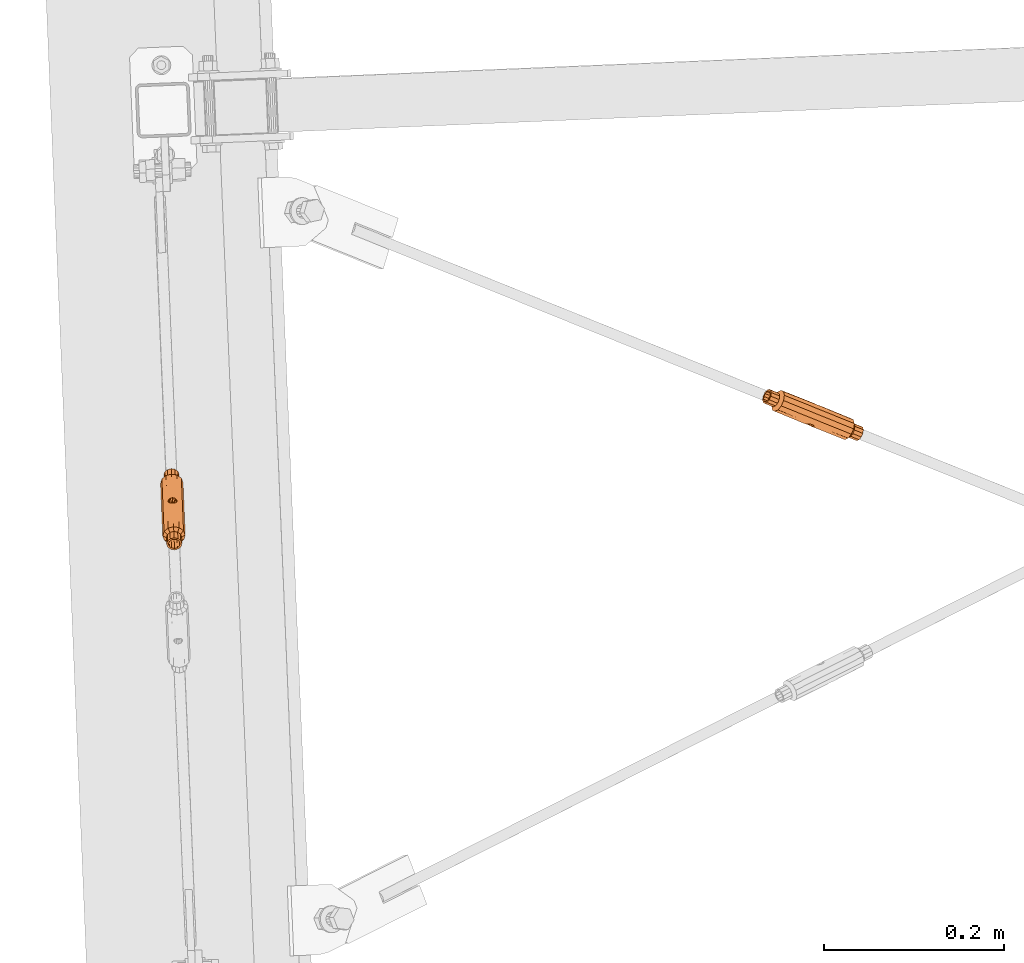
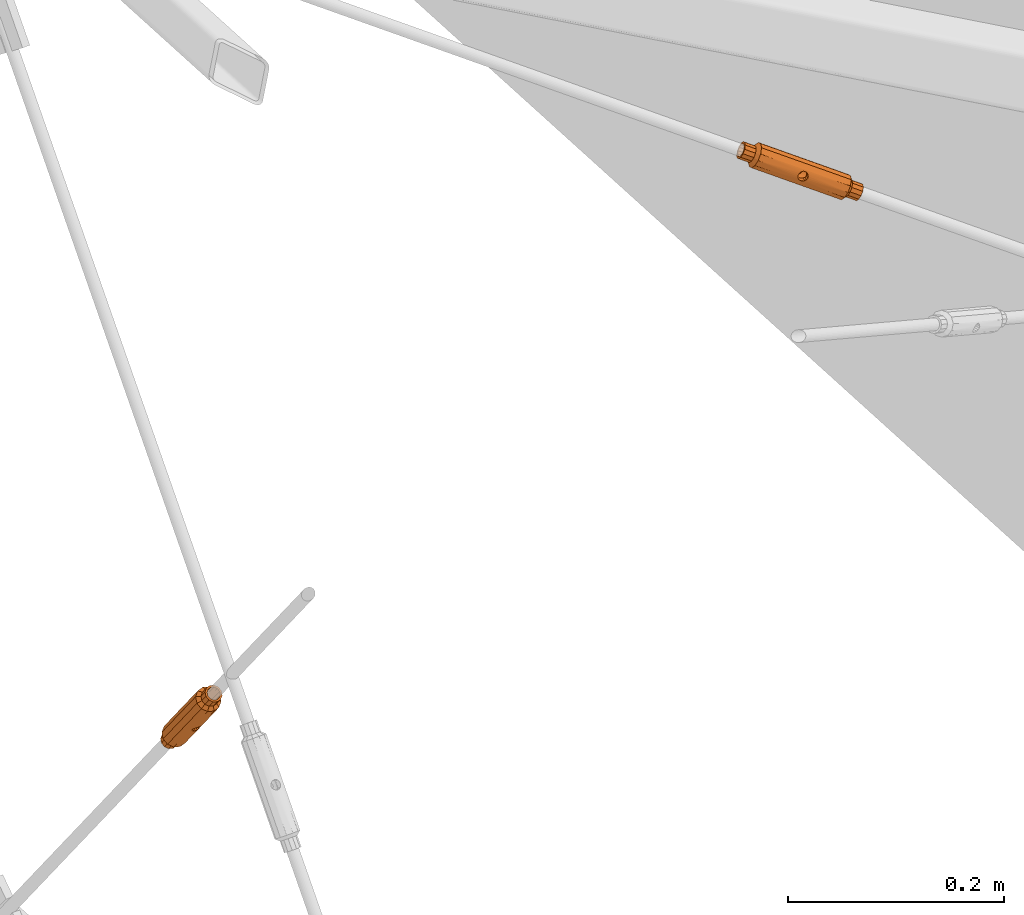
# One storey, part 285 of 288: 2 proxies.
"""IFC2X3 building model written with IfcOpenShell, lengths in millimetres."""

from ifc_helpers import new_model, entity, si_unit, converted_unit, origin_with_axes, place, context, project, spatial, faceted_brep, material, element, save


model = new_model("IFC2X3")

# Units and contexts
model_context = context("Model", 3, precision=1e-09, world=origin_with_axes())
ifc_project = project(units=[si_unit("LENGTHUNIT", "METRE", prefix="MILLI"), si_unit("AREAUNIT", "SQUARE_METRE"), si_unit("VOLUMEUNIT", "CUBIC_METRE"), converted_unit("PLANEANGLEUNIT", "DEGREE", entity("IfcPlaneAngleMeasure", 0.01745329), si_unit("PLANEANGLEUNIT", "RADIAN"), dimensions=[0, 0, 0, 0, 0, 0, 0])], contexts=[model_context])

# Site, building, storey
site_placement = place(None, origin_with_axes())
site = spatial("IfcSite", under=ifc_project, at=site_placement, Name="Remont ?wietlik?w nad MC w NCPP w Opolu", CompositionType="ELEMENT")
building_placement = place(site_placement, origin_with_axes())
building = spatial("IfcBuilding", under=site, at=building_placement, Name="Konstrukcja 1", CompositionType="ELEMENT")
storey_placement = place(building_placement, origin_with_axes())
storey = spatial("IfcBuildingStorey", under=building, at=storey_placement, Name="Default Storey", CompositionType="ELEMENT", Elevation=0.0)

# Proxies
ifc_material = material(Name="Brak")
proxy_1_placement = place(None, origin_with_axes())
element("IfcBuildingElementProxy", 1, at=proxy_1_placement, inside=storey, material=ifc_material, ObjectType="Turnbuckle", context=model_context, shape_type="Brep", body=[
    faceted_brep([(-581.838036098, 10849.304743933, 565.114634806), (-580.726567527, 10847.708688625, 565.826916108), (-580.951422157, 10853.2398469, 570.170030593), (-580.481025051, 10808.806916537, 617.217295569), (-583.243506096, 10844.851162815, 571.957095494), (-581.659646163, 10844.990495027, 570.633138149), (-580.35349049, 10845.676443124, 567.93798921), (-580.62821785, 10845.330163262, 568.869369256), (-580.853541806, 10850.87267188, 573.197965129), (-580.403991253, 10846.897772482, 566.375745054), (-580.513292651, 10851.946107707, 571.585302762), (-583.756584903, 10809.35790212, 617.753929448), (-583.477302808, 10850.505389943, 564.724580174), (-582.082483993, 10854.480891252, 569.130179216), (-585.475048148, 10850.917859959, 564.59316583), (-583.733114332, 10855.364403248, 568.50199654), (-583.663364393, 10885.769801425, 518.771437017), (-579.240637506, 10877.762256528, 526.970500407), (-575.732834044, 10877.335751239, 530.967516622), (-573.85622321, 10872.486848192, 527.116084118), (-577.968544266, 10874.475343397, 524.359740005), (-580.453113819, 10880.747019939, 533.786960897), (-585.670272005, 10855.639226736, 568.290541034), (-585.220461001, 10844.760829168, 572.468834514), (-578.034535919, 10822.255227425, 608.605813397), (-581.902531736, 10850.128858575, 574.697013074), (-583.498133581, 10849.681540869, 575.77114019), (-573.314256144, 10818.843958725, 605.786369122), (-580.275668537, 10846.199317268, 567.084902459), (-578.026479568, 10807.033056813, 615.751184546), (-581.20881891, 10883.995941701, 517.305325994), (-578.234688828, 10881.557139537, 515.302581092), (-579.510784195, 10884.854393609, 517.921555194), (-578.964937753, 10871.094630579, 521.748979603), (-579.234217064, 10878.165790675, 512.683606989), (-583.821659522, 10810.931691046, 618.98638785), (-588.030978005, 10809.860004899, 618.284635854), (-591.038307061, 10807.283270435, 616.367413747), (-592.037835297, 10803.891921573, 613.748439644), (-590.76173993, 10800.594667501, 611.129465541), (-587.551949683, 10798.275004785, 609.212243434), (-583.26852526, 10797.554485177, 608.510491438), (-579.059206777, 10798.626171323, 609.212243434), (-576.051877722, 10801.202905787, 611.129465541), (-575.052349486, 10804.594254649, 613.748439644), (-576.328444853, 10807.891508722, 616.367413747), (-579.5382351, 10810.211171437, 618.284635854), (-589.275197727, 10806.567933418, 615.751184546), (-586.975475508, 10808.538377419, 617.217295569), (-577.050641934, 10804.511627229, 613.748439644), (-577.814987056, 10801.918242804, 611.745694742), (-580.114709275, 10799.947798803, 610.279583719), (-583.333599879, 10799.128274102, 609.742949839), (-586.609159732, 10799.679259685, 610.279583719), (-589.063705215, 10801.453119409, 611.745694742), (-590.039542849, 10803.974548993, 613.748439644), (-586.938924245, 10886.320787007, 519.308070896), (-582.720574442, 10887.174056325, 519.838777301), (-582.440361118, 10880.074644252, 528.881709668), (-586.752267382, 10881.806607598, 534.818949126), (-587.431921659, 10850.341870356, 564.724580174), (-587.57812834, 10855.205415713, 568.50199654), (-587.198124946, 10844.687643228, 571.957095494), (-585.415684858, 10849.482195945, 576.166209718), (-579.831010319, 10817.291756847, 609.227616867), (-584.114434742, 10818.012276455, 609.929368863), (-588.788080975, 10844.695741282, 570.633138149), (-582.241546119, 10875.589056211, 510.766384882), (-586.450864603, 10874.517370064, 510.064632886), (-590.734289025, 10875.237889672, 510.766384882), (-593.944079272, 10877.557552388, 512.683606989), (-595.220174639, 10880.85480646, 515.302581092), (-594.220646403, 10884.246155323, 517.921555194), (-591.213317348, 10886.822889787, 519.838777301), (-587.003998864, 10887.894575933, 520.540529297), (-589.791499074, 10876.642144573, 511.833725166), (-586.515939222, 10876.09115899, 511.297091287), (-583.297048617, 10876.91068369, 511.833725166), (-580.997326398, 10878.881127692, 513.299836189), (-580.232981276, 10881.474512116, 515.302581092), (-590.15781485, 10885.501262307, 518.771437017), (-592.457537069, 10883.530818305, 517.305325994), (-593.221882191, 10880.937433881, 515.302581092), (-592.246044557, 10878.416004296, 513.299836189), (-581.48444315, 10840.753319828, 558.417882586), (-580.428493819, 10840.499962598, 560.181651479), (-583.074399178, 10840.761417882, 557.093925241), (-575.326117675, 10867.499570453, 523.264651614), (-571.43764531, 10813.995055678, 601.934936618), (-576.621220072, 10814.972094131, 607.31039476), (-581.962835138, 10868.525977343, 519.837770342), (-589.150184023, 10854.188648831, 569.130179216), (-588.96647091, 10849.009990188, 565.114634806), (-587.343147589, 10849.522553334, 575.77114019), (-584.333689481, 10823.314815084, 609.637801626), (-588.970231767, 10849.836616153, 574.697013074), (-589.844030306, 10844.949098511, 568.869369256), (-590.07704772, 10850.491289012, 573.197965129), (-590.146407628, 10845.271515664, 567.93798921), (-589.942379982, 10847.327623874, 565.826916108), (-590.174928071, 10852.858464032, 570.170030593), (-580.195476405, 10834.957772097, 555.853055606), (-581.302292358, 10835.612444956, 554.354007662), (-585.052063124, 10840.688231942, 556.582186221), (-582.929376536, 10835.926507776, 553.279880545), (-580.126116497, 10840.177545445, 561.113031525), (-586.710351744, 10880.792904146, 529.581260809), (-590.267130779, 10845.786180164, 567.084902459), (-590.504754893, 10851.532970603, 571.585302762), (-590.196908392, 10846.492845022, 566.375745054), (-588.323753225, 10816.940590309, 609.227616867), (-586.158952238, 10867.457652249, 519.1382192), (-587.029018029, 10840.597898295, 557.093925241), (-584.856839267, 10835.966865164, 552.884811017), (-579.767769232, 10833.916090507, 557.465717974), (-579.748660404, 10863.710255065, 520.445207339), (-572.907539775, 10809.007777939, 598.083504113), (-575.345124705, 10811.674840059, 604.691420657), (-580.005393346, 10839.662880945, 561.966118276), (-592.942441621, 10880.230598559, 533.786960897), (-590.523863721, 10821.738806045, 608.605813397), (-585.938834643, 10862.134246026, 519.413219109), (-586.774390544, 10835.767520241, 553.279880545), (-580.075615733, 10838.956216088, 562.675275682), (-590.906468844, 10879.724579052, 528.881709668), (-591.33108228, 10814.363855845, 607.31039476), (-589.644306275, 10840.118897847, 560.181651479), (-588.612877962, 10840.458566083, 558.417882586), (-590.428942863, 10868.175912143, 519.837770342), (-588.369992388, 10835.320202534, 554.354007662), (-580.097596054, 10832.590597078, 558.880990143), (-577.330082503, 10805.218462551, 595.264059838), (-576.344652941, 10808.283491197, 602.072446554), (-580.330144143, 10838.121437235, 563.224104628), (-581.306053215, 10836.439070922, 563.93638593), (-581.122340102, 10831.260412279, 559.920841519), (-582.840602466, 10835.107190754, 564.326440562), (-582.694395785, 10830.243645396, 560.549024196), (-584.797475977, 10834.531201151, 564.457854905), (-589.919033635, 10839.772617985, 561.113031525), (-589.996855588, 10839.249743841, 561.966118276), (-589.418982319, 10834.57638923, 555.853055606), (-589.868532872, 10838.551288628, 562.675275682), (-584.60225212, 10829.809834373, 560.760479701), (-593.904366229, 10877.155925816, 526.970500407), (-597.36498435, 10876.441283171, 530.967516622), (-594.94640645, 10817.949490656, 605.786369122), (-586.795221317, 10834.943671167, 564.326440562), (-588.434488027, 10836.144317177, 563.93638593), (-592.330610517, 10810.972506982, 604.691420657), (-589.545956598, 10837.740372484, 563.224104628), (-589.759231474, 10833.502953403, 557.465717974), (-589.321101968, 10832.20921421, 558.880990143), (-594.900759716, 10873.775212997, 524.359740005), (-593.628666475, 10870.488299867, 521.748979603), (-592.237988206, 10863.193833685, 520.445207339), (-588.190040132, 10830.968169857, 559.920841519), (-586.539409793, 10830.084657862, 560.549024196), (-583.520256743, 10803.642453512, 594.232071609), (-579.351981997, 10805.706756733, 600.155224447), (-598.834878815, 10871.454005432, 527.116084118), (-596.416300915, 10812.962212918, 601.934936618), (-591.05451515, 10807.67525291, 602.072446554), (-589.819410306, 10804.702041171, 595.264059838), (-596.958267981, 10866.605102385, 523.264651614), (-583.56130048, 10804.635070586, 599.453472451), (-594.539690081, 10808.11330987, 598.083504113), (-587.844724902, 10805.355590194, 600.155224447)], [[[0, 1, 2]], [[3, 4, 5]], [[6, 7, 8]], [[9, 10, 2]], [[1, 9, 2]], [[3, 5, 7]], [[3, 11, 4]], [[12, 0, 13]], [[14, 12, 15]], [[16, 1, 0]], [[17, 18, 19, 20]], [[12, 13, 15]], [[0, 2, 13]], [[21, 2, 10]], [[14, 15, 22]], [[11, 23, 4]], [[7, 5, 8]], [[6, 8, 10]], [[24, 21, 10]], [[5, 4, 25]], [[4, 23, 26]], [[21, 24, 27, 18]], [[28, 6, 10]], [[29, 7, 6]], [[9, 28, 10]], [[30, 9, 1]], [[20, 31, 32, 17]], [[33, 34, 31, 20]], [[29, 3, 7]], [[35, 36, 37, 38, 39, 40, 41, 42, 43, 44, 45, 46], [47, 48, 11, 3, 29, 49, 50, 51, 52, 53, 54, 55]], [[16, 0, 12]], [[56, 12, 14]], [[16, 30, 1]], [[17, 32, 57, 58]], [[18, 17, 58, 21]], [[59, 15, 13]], [[21, 13, 2]], [[60, 14, 61]], [[14, 22, 61]], [[59, 22, 15]], [[11, 62, 23]], [[23, 63, 26]], [[5, 25, 8]], [[24, 10, 8]], [[4, 26, 25]], [[46, 64, 65, 35]], [[48, 66, 62]], [[11, 48, 62]], [[67, 68, 69, 70, 71, 72, 73, 74, 57, 32, 31, 34], [75, 76, 77, 78, 79, 30, 16, 56, 80, 81, 82, 83]], [[77, 84, 85]], [[77, 86, 84]], [[77, 76, 86]], [[20, 19, 87, 33]], [[18, 27, 88, 19]], [[64, 46, 45, 89]], [[78, 77, 85]], [[29, 6, 28]], [[30, 28, 9]], [[34, 33, 90, 67]], [[56, 16, 12]], [[56, 14, 60]], [[21, 59, 13]], [[60, 61, 91]], [[59, 61, 22]], [[92, 60, 91]], [[23, 62, 93]], [[23, 93, 63]], [[94, 26, 63]], [[62, 66, 95]], [[66, 96, 97]], [[24, 8, 25]], [[94, 25, 26]], [[24, 64, 89, 27]], [[47, 98, 96]], [[48, 96, 66]], [[99, 92, 100]], [[80, 60, 92]], [[101, 85, 84]], [[102, 84, 86]], [[76, 103, 86]], [[104, 86, 103]], [[101, 105, 85]], [[78, 85, 105]], [[30, 29, 28]], [[80, 56, 60]], [[58, 57, 74, 106]], [[21, 58, 106, 59]], [[59, 91, 61]], [[96, 98, 97]], [[107, 108, 98]], [[107, 109, 108]], [[109, 99, 100]], [[92, 91, 100]], [[62, 95, 93]], [[94, 63, 93]], [[66, 97, 95]], [[94, 24, 25]], [[64, 24, 94, 65]], [[35, 65, 110, 36]], [[81, 109, 107]], [[47, 107, 98]], [[48, 47, 96]], [[80, 92, 99]], [[81, 99, 109]], [[67, 90, 111, 68]], [[102, 101, 84]], [[104, 102, 86]], [[76, 112, 103]], [[113, 104, 103]], [[101, 114, 105]], [[33, 87, 115, 90]], [[19, 88, 116, 87]], [[27, 89, 117, 88]], [[89, 45, 44, 117]], [[114, 118, 105]], [[78, 105, 118]], [[29, 30, 79, 49]], [[59, 119, 91]], [[98, 108, 97]], [[109, 100, 108]], [[119, 100, 91]], [[94, 93, 95]], [[120, 95, 97]], [[47, 81, 107]], [[81, 80, 99]], [[76, 75, 112]], [[115, 101, 102]], [[121, 102, 104]], [[122, 103, 112]], [[122, 113, 103]], [[121, 104, 113]], [[115, 114, 101]], [[114, 123, 118]], [[50, 78, 118]], [[78, 50, 49, 79]], [[106, 74, 73, 124]], [[59, 106, 124, 119]], [[120, 97, 108]], [[119, 108, 100]], [[120, 94, 95]], [[65, 94, 120, 110]], [[36, 110, 125, 37]], [[81, 47, 55, 82]], [[75, 83, 126]], [[75, 127, 112]], [[75, 126, 127]], [[68, 111, 128, 69]], [[90, 115, 121, 111]], [[121, 115, 102]], [[129, 122, 112]], [[121, 113, 122]], [[114, 130, 123]], [[115, 131, 114]], [[87, 116, 131, 115]], [[88, 117, 132, 116]], [[117, 44, 43, 132]], [[130, 133, 123]], [[50, 118, 123]], [[130, 134, 133]], [[135, 136, 134]], [[137, 138, 136]], [[119, 120, 108]], [[83, 139, 126]], [[83, 140, 139]], [[129, 112, 127]], [[127, 126, 141]], [[54, 142, 140]], [[121, 122, 129]], [[137, 143, 138]], [[135, 137, 136]], [[130, 135, 134]], [[131, 130, 114]], [[50, 123, 133]], [[51, 133, 134]], [[51, 134, 136]], [[52, 136, 138]], [[124, 73, 72, 144]], [[119, 124, 144, 145]], [[120, 119, 145, 146]], [[110, 120, 146, 125]], [[52, 138, 147]], [[53, 147, 148]], [[37, 125, 149, 38]], [[53, 148, 150]], [[54, 150, 142]], [[83, 54, 140]], [[82, 55, 54, 83]], [[126, 139, 141]], [[139, 140, 151]], [[127, 141, 129]], [[140, 142, 151]], [[152, 142, 150]], [[71, 153, 144, 72]], [[70, 154, 153, 71]], [[69, 128, 154, 70]], [[111, 121, 155, 128]], [[155, 121, 129]], [[152, 150, 148]], [[156, 148, 147]], [[157, 147, 138]], [[143, 157, 138]], [[158, 143, 137]], [[158, 137, 135]], [[131, 135, 130]], [[116, 132, 159, 131]], [[132, 43, 42, 159]], [[51, 50, 133]], [[52, 51, 136]], [[53, 52, 147]], [[54, 53, 150]], [[139, 151, 141]], [[155, 129, 141]], [[152, 151, 142]], [[156, 152, 148]], [[157, 156, 147]], [[158, 157, 143]], [[131, 158, 135]], [[145, 144, 153, 160]], [[146, 145, 160, 161]], [[125, 146, 161, 149]], [[38, 149, 162, 39]], [[155, 141, 151]], [[163, 151, 152]], [[154, 164, 160, 153]], [[128, 155, 164, 154]], [[163, 152, 156]], [[158, 156, 157]], [[131, 159, 165, 158]], [[159, 42, 41, 165]], [[163, 155, 151]], [[158, 163, 156]], [[161, 160, 164, 166]], [[149, 161, 166, 162]], [[40, 167, 165, 41]], [[39, 162, 167, 40]], [[155, 163, 166, 164]], [[158, 165, 167, 163]], [[162, 166, 163, 167]]]),
])
proxy_2_placement = place(None, origin_with_axes())
element("IfcBuildingElementProxy", 2, at=proxy_2_placement, inside=storey, material=ifc_material, ObjectType="Turnbuckle", context=model_context, shape_type="Brep", body=[
    faceted_brep([(123.725260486, 10953.835223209, 866.91160495), (124.254927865, 10952.487752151, 865.430431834), (126.209676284, 10959.121546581, 864.134806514), (178.064969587, 10932.154110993, 836.354639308), (131.369048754, 10951.900555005, 864.370235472), (129.471426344, 10951.513244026, 863.642287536), (126.421652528, 10951.220197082, 863.873368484), (127.422895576, 10951.207602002, 863.627996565), (129.362526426, 10957.84750532, 862.340972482), (124.794958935, 10951.877530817, 864.798886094), (127.549286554, 10958.325433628, 862.934655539), (179.933698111, 10933.043355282, 839.007553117), (123.838160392, 10954.943726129, 868.654982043), (125.531308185, 10960.029642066, 865.752200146), (124.579819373, 10955.411410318, 870.501492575), (125.55287018, 10960.762732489, 867.585748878), (75.557786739, 10973.576435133, 894.676749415), (82.55564892, 10968.366725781, 886.028351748), (84.237160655, 10969.033303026, 881.009295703), (81.667182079, 10963.102939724, 880.704234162), (80.813544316, 10964.346726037, 885.821560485), (87.795767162, 10973.44451801, 884.130924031), (126.24191803, 10961.071012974, 869.403163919), (132.780394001, 10952.097624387, 865.835723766), (165.701226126, 10941.963551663, 839.806120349), (131.327798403, 10957.687327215, 862.45425037), (133.121897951, 10957.704149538, 863.279302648), (162.142619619, 10937.55233668, 836.684492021), (125.526200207, 10951.436633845, 864.271527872), (176.214494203, 10929.860279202, 834.731392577), (73.707311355, 10971.282603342, 893.053502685), (71.369388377, 10968.15708249, 891.164209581), (73.116973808, 10972.189729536, 891.371651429), (80.208393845, 10960.374100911, 887.57943748), (70.762334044, 10964.171959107, 892.927617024), (180.487730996, 10934.929889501, 838.641443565), (182.300529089, 10933.944392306, 842.527558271), (182.996665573, 10931.074603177, 845.789311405), (182.389611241, 10927.089479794, 847.552718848), (180.64202581, 10923.056832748, 847.345277), (178.222173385, 10920.05720656, 845.222569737), (175.778451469, 10918.894348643, 841.753374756), (173.965653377, 10919.879845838, 837.86726005), (173.269516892, 10922.749634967, 834.605506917), (173.876571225, 10926.73475835, 832.842099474), (175.624156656, 10930.767405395, 833.049541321), (178.044009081, 10933.767031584, 835.172248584), (181.85229514, 10930.095195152, 844.4735697), (181.319955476, 10932.28973978, 841.979287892), (174.878105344, 10926.776490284, 834.572760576), (174.413887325, 10923.729042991, 835.921248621), (174.94622699, 10921.534498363, 838.415530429), (176.332484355, 10920.780882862, 841.387265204), (178.201212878, 10921.670127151, 844.040179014), (180.051688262, 10923.963958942, 845.663425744), (181.388077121, 10927.047747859, 845.822057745), (77.426515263, 10974.465679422, 897.329663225), (75.536826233, 10975.189355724, 893.494358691), (84.967912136, 10971.356944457, 888.144401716), (91.389475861, 10975.154603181, 889.232681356), (125.82019546, 10955.026313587, 872.079958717), (127.479971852, 10960.843030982, 870.915800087), (133.351083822, 10951.983142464, 867.795212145), (134.442492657, 10957.757227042, 864.737395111), (168.613348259, 10937.577885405, 840.537882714), (171.057070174, 10938.740743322, 844.007077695), (133.044162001, 10951.662112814, 869.816010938), (71.458470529, 10961.302169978, 896.189370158), (73.271268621, 10960.316672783, 900.075484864), (75.714990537, 10961.4795307, 903.544679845), (78.134842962, 10964.479156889, 905.667387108), (79.882428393, 10968.511803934, 905.874828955), (80.489482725, 10972.496927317, 904.111421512), (79.793346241, 10975.366716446, 900.849668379), (77.980548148, 10976.352213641, 896.963553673), (75.69403003, 10963.092451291, 902.362289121), (73.825301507, 10962.203207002, 899.709375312), (72.439044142, 10962.956822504, 896.737640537), (71.906704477, 10965.151367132, 894.243358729), (72.370922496, 10968.198814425, 892.894870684), (78.812772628, 10973.712063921, 900.301398), (79.345112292, 10971.517519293, 902.795679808), (78.880894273, 10968.470072, 904.144167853), (77.544505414, 10965.386283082, 903.985535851), (120.714837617, 10943.58444947, 868.900917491), (121.717185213, 10943.846499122, 867.107393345), (120.407915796, 10943.26341982, 870.921716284), (80.77445512, 10957.242464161, 883.297480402), (159.572641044, 10931.621973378, 836.379430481), (166.193495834, 10934.578259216, 838.415175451), (80.902347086, 10957.513312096, 890.830961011), (129.073603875, 10960.177242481, 871.873322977), (127.297996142, 10953.984091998, 873.085328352), (135.048999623, 10957.784448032, 866.609353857), (169.294934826, 10943.673636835, 844.907877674), (134.870094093, 10957.83492763, 868.575373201), (132.041814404, 10951.400063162, 871.609535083), (133.985301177, 10958.040127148, 870.329174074), (131.329813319, 10951.424710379, 872.354720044), (128.873846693, 10952.680213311, 873.411970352), (130.832451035, 10959.31416841, 872.123008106), (119.77369844, 10937.206435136, 868.387754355), (118.888905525, 10937.411634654, 870.141555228), (120.978605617, 10943.148937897, 872.881204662), (118.709999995, 10937.462114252, 872.107574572), (122.429186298, 10943.821851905, 866.362208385), (87.403969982, 10972.516155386, 891.60271651), (130.533870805, 10951.645293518, 872.924833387), (132.556957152, 10958.5340933, 871.587961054), (129.703119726, 10952.082044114, 873.280237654), (172.869868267, 10937.755246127, 847.893192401), (82.70945983, 10956.530905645, 894.704887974), (122.389950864, 10943.346007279, 874.346692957), (119.31650696, 10937.489335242, 873.979533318), (121.202042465, 10936.712468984, 867.128967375), (81.798185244, 10953.02218603, 888.094176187), (158.679914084, 10925.761497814, 838.972676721), (164.445910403, 10930.545612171, 838.207733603), (123.225128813, 10943.601268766, 865.792095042), (94.055355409, 10973.705342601, 894.947555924), (171.960814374, 10942.224376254, 850.622752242), (84.464064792, 10951.572925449, 893.809050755), (120.637101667, 10937.542412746, 875.437625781), (124.055879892, 10943.16451817, 865.436690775), (89.211082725, 10971.533748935, 895.476643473), (173.566004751, 10934.885456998, 851.154945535), (126.336104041, 10944.038960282, 875.088931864), (124.287573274, 10943.733318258, 875.074640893), (85.145517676, 10957.690116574, 898.163202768), (122.431201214, 10937.559235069, 876.262678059), (122.926548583, 10935.932393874, 866.593920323), (159.703644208, 10921.541219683, 843.769372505), (163.83885607, 10926.560488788, 839.971141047), (124.885152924, 10942.566348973, 865.304958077), (126.461003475, 10941.262470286, 865.631600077), (124.685395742, 10935.069319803, 866.843605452), (127.938804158, 10940.220248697, 866.636969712), (126.279027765, 10934.403531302, 867.801128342), (129.179180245, 10939.835151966, 868.215435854), (127.337347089, 10944.026365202, 874.843559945), (128.232799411, 10943.809928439, 874.445400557), (124.396473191, 10937.399056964, 876.375955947), (128.964040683, 10943.369031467, 873.918042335), (127.517081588, 10934.175549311, 869.31376451), (89.905035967, 10968.67296012, 898.728167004), (95.079085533, 10969.48506447, 899.744251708), (172.984544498, 10938.004098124, 855.419448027), (129.920839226, 10940.302836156, 870.061946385), (130.033739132, 10941.411339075, 871.805323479), (172.958950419, 10930.900333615, 852.918352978), (129.504071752, 10942.758810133, 873.286496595), (126.209713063, 10936.921128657, 875.782272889), (127.549323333, 10936.125015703, 874.582121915), (89.299885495, 10964.700334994, 900.486043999), (87.557780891, 10960.68033525, 900.279252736), (88.057773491, 10953.283010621, 898.91080808), (128.227691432, 10935.216920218, 872.964728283), (128.206129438, 10934.483829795, 871.131179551), (162.369523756, 10920.091959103, 849.484247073), (164.534992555, 10923.690699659, 843.23289418), (94.186358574, 10963.624588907, 902.337497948), (172.091817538, 10932.14362256, 858.012694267), (171.211364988, 10926.867686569, 852.71091113), (165.963232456, 10921.802044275, 854.586004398), (91.616379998, 10957.694225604, 902.032436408), (166.347790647, 10922.705202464, 847.119008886), (169.521838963, 10926.213259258, 857.707632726), (168.791512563, 10923.868060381, 850.588203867)], [[[0, 1, 2]], [[3, 4, 5]], [[6, 7, 8]], [[9, 10, 2]], [[1, 9, 2]], [[3, 5, 7]], [[3, 11, 4]], [[12, 0, 13]], [[14, 12, 15]], [[16, 1, 0]], [[17, 18, 19, 20]], [[12, 13, 15]], [[0, 2, 13]], [[21, 2, 10]], [[14, 15, 22]], [[11, 23, 4]], [[7, 5, 8]], [[6, 8, 10]], [[24, 21, 10]], [[5, 4, 25]], [[4, 23, 26]], [[21, 24, 27, 18]], [[28, 6, 10]], [[29, 7, 6]], [[9, 28, 10]], [[30, 9, 1]], [[20, 31, 32, 17]], [[33, 34, 31, 20]], [[29, 3, 7]], [[35, 36, 37, 38, 39, 40, 41, 42, 43, 44, 45, 46], [47, 48, 11, 3, 29, 49, 50, 51, 52, 53, 54, 55]], [[16, 0, 12]], [[56, 12, 14]], [[16, 30, 1]], [[17, 32, 57, 58]], [[18, 17, 58, 21]], [[59, 15, 13]], [[21, 13, 2]], [[60, 14, 61]], [[14, 22, 61]], [[59, 22, 15]], [[11, 62, 23]], [[23, 63, 26]], [[5, 25, 8]], [[24, 10, 8]], [[4, 26, 25]], [[46, 64, 65, 35]], [[48, 66, 62]], [[11, 48, 62]], [[67, 68, 69, 70, 71, 72, 73, 74, 57, 32, 31, 34], [75, 76, 77, 78, 79, 30, 16, 56, 80, 81, 82, 83]], [[77, 84, 85]], [[77, 86, 84]], [[77, 76, 86]], [[20, 19, 87, 33]], [[18, 27, 88, 19]], [[64, 46, 45, 89]], [[78, 77, 85]], [[29, 6, 28]], [[30, 28, 9]], [[34, 33, 90, 67]], [[56, 16, 12]], [[56, 14, 60]], [[21, 59, 13]], [[60, 61, 91]], [[59, 61, 22]], [[92, 60, 91]], [[23, 62, 93]], [[23, 93, 63]], [[94, 26, 63]], [[62, 66, 95]], [[66, 96, 97]], [[24, 8, 25]], [[94, 25, 26]], [[24, 64, 89, 27]], [[47, 98, 96]], [[48, 96, 66]], [[99, 92, 100]], [[80, 60, 92]], [[101, 85, 84]], [[102, 84, 86]], [[76, 103, 86]], [[104, 86, 103]], [[101, 105, 85]], [[78, 85, 105]], [[30, 29, 28]], [[80, 56, 60]], [[58, 57, 74, 106]], [[21, 58, 106, 59]], [[59, 91, 61]], [[96, 98, 97]], [[107, 108, 98]], [[107, 109, 108]], [[109, 99, 100]], [[92, 91, 100]], [[62, 95, 93]], [[94, 63, 93]], [[66, 97, 95]], [[94, 24, 25]], [[64, 24, 94, 65]], [[35, 65, 110, 36]], [[81, 109, 107]], [[47, 107, 98]], [[48, 47, 96]], [[80, 92, 99]], [[81, 99, 109]], [[67, 90, 111, 68]], [[102, 101, 84]], [[104, 102, 86]], [[76, 112, 103]], [[113, 104, 103]], [[101, 114, 105]], [[33, 87, 115, 90]], [[19, 88, 116, 87]], [[27, 89, 117, 88]], [[89, 45, 44, 117]], [[114, 118, 105]], [[78, 105, 118]], [[29, 30, 79, 49]], [[59, 119, 91]], [[98, 108, 97]], [[109, 100, 108]], [[119, 100, 91]], [[94, 93, 95]], [[120, 95, 97]], [[47, 81, 107]], [[81, 80, 99]], [[76, 75, 112]], [[115, 101, 102]], [[121, 102, 104]], [[122, 103, 112]], [[122, 113, 103]], [[121, 104, 113]], [[115, 114, 101]], [[114, 123, 118]], [[50, 78, 118]], [[78, 50, 49, 79]], [[106, 74, 73, 124]], [[59, 106, 124, 119]], [[120, 97, 108]], [[119, 108, 100]], [[120, 94, 95]], [[65, 94, 120, 110]], [[36, 110, 125, 37]], [[81, 47, 55, 82]], [[75, 83, 126]], [[75, 127, 112]], [[75, 126, 127]], [[68, 111, 128, 69]], [[90, 115, 121, 111]], [[121, 115, 102]], [[129, 122, 112]], [[121, 113, 122]], [[114, 130, 123]], [[115, 131, 114]], [[87, 116, 131, 115]], [[88, 117, 132, 116]], [[117, 44, 43, 132]], [[130, 133, 123]], [[50, 118, 123]], [[130, 134, 133]], [[135, 136, 134]], [[137, 138, 136]], [[119, 120, 108]], [[83, 139, 126]], [[83, 140, 139]], [[129, 112, 127]], [[127, 126, 141]], [[54, 142, 140]], [[121, 122, 129]], [[137, 143, 138]], [[135, 137, 136]], [[130, 135, 134]], [[131, 130, 114]], [[50, 123, 133]], [[51, 133, 134]], [[51, 134, 136]], [[52, 136, 138]], [[124, 73, 72, 144]], [[119, 124, 144, 145]], [[120, 119, 145, 146]], [[110, 120, 146, 125]], [[52, 138, 147]], [[53, 147, 148]], [[37, 125, 149, 38]], [[53, 148, 150]], [[54, 150, 142]], [[83, 54, 140]], [[82, 55, 54, 83]], [[126, 139, 141]], [[139, 140, 151]], [[127, 141, 129]], [[140, 142, 151]], [[152, 142, 150]], [[71, 153, 144, 72]], [[70, 154, 153, 71]], [[69, 128, 154, 70]], [[111, 121, 155, 128]], [[155, 121, 129]], [[152, 150, 148]], [[156, 148, 147]], [[157, 147, 138]], [[143, 157, 138]], [[158, 143, 137]], [[158, 137, 135]], [[131, 135, 130]], [[116, 132, 159, 131]], [[132, 43, 42, 159]], [[51, 50, 133]], [[52, 51, 136]], [[53, 52, 147]], [[54, 53, 150]], [[139, 151, 141]], [[155, 129, 141]], [[152, 151, 142]], [[156, 152, 148]], [[157, 156, 147]], [[158, 157, 143]], [[131, 158, 135]], [[145, 144, 153, 160]], [[146, 145, 160, 161]], [[125, 146, 161, 149]], [[38, 149, 162, 39]], [[155, 141, 151]], [[163, 151, 152]], [[154, 164, 160, 153]], [[128, 155, 164, 154]], [[163, 152, 156]], [[158, 156, 157]], [[131, 159, 165, 158]], [[159, 42, 41, 165]], [[163, 155, 151]], [[158, 163, 156]], [[161, 160, 164, 166]], [[149, 161, 166, 162]], [[40, 167, 165, 41]], [[39, 162, 167, 40]], [[155, 163, 166, 164]], [[158, 165, 167, 163]], [[162, 166, 163, 167]]]),
])

save(model, "model.ifc")
